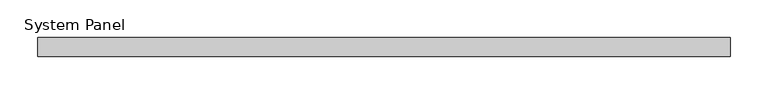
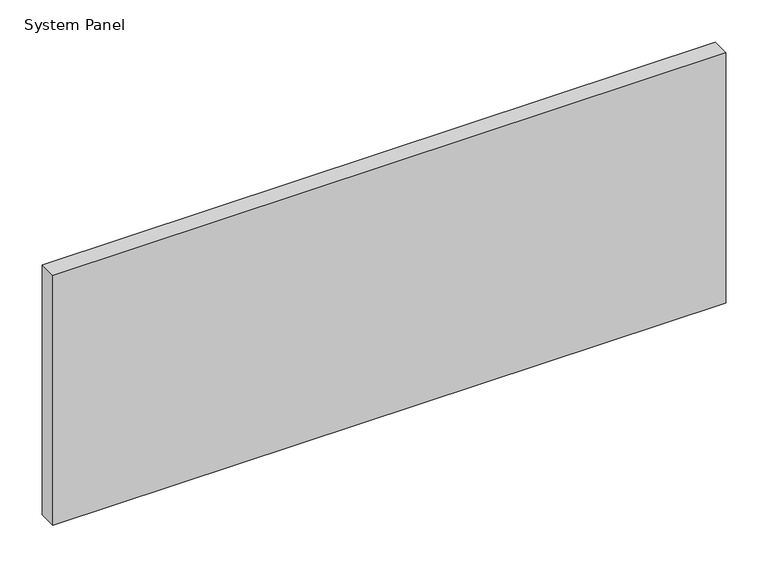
"""IFC4 building model written with IfcOpenShell, lengths in millimetres: plate geometry, System Panel : Glazed - ACMP (AL-1)."""

from ifc_helpers import new_model, si_unit, origin, origin_with_axes, place, context, project, spatial, polyline, outline, extrude, source, transform, mapped, element, save


def system_panel_3ee7c912(model_context):
    return source(origin(), model_context, "Body", "SweptSolid", [
        extrude(outline(polyline([(460.375, -25.4), (-460.375, -25.4), (-460.375, 0.0), (460.375, 0.0), (460.375, -25.4)])), origin_with_axes(), (0.0, 0.0, 1.0), 361.95),
    ])


if __name__ == "__main__":
    model = new_model("IFC4")
    model_context = context("Model", 3, world=origin())
    ifc_project = project(units=[si_unit("LENGTHUNIT", "METRE", prefix="MILLI")], contexts=[model_context])
    site = spatial("IfcSite", under=ifc_project)
    building = spatial("IfcBuilding", under=site)
    placement = place(None, origin())
    system_panel_shape = system_panel_3ee7c912(model_context)
    element("IfcPlate", 1, ObjectType="System Panel : Glazed - ACMP (AL-1)", at=placement, inside=building, context=model_context, shape_type="MappedRepresentation", body=[
        mapped(system_panel_shape, transform((0.0, 0.0, 0.0), x_axis=(1.0, 0.0, 0.0), y_axis=(0.0, 1.0, 0.0), z_axis=(0.0, 0.0, 1.0))),
    ])
    save(model, "model.ifc")
